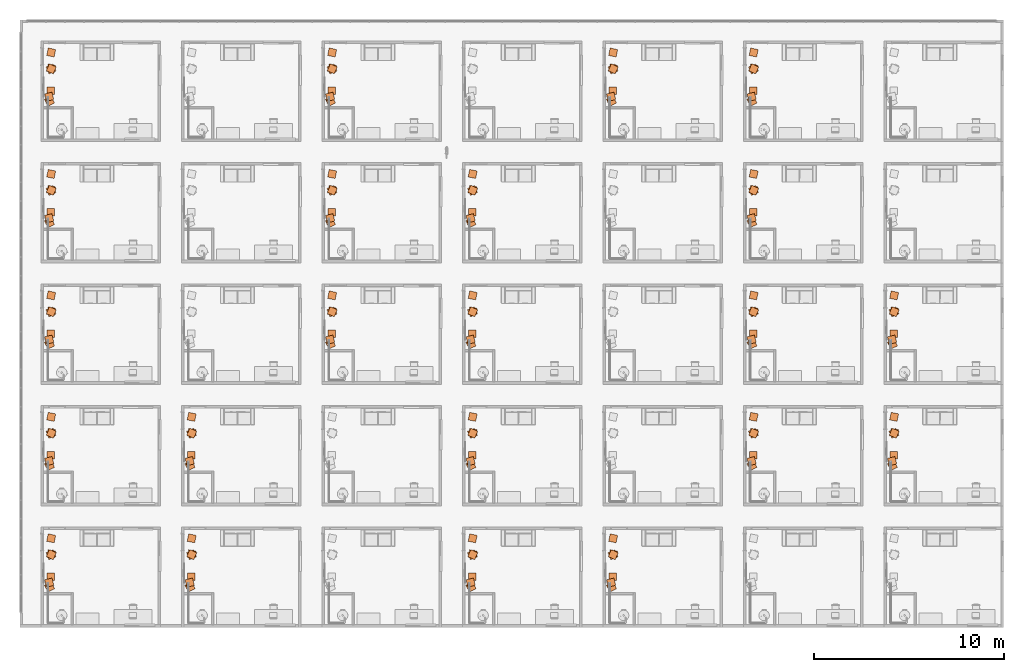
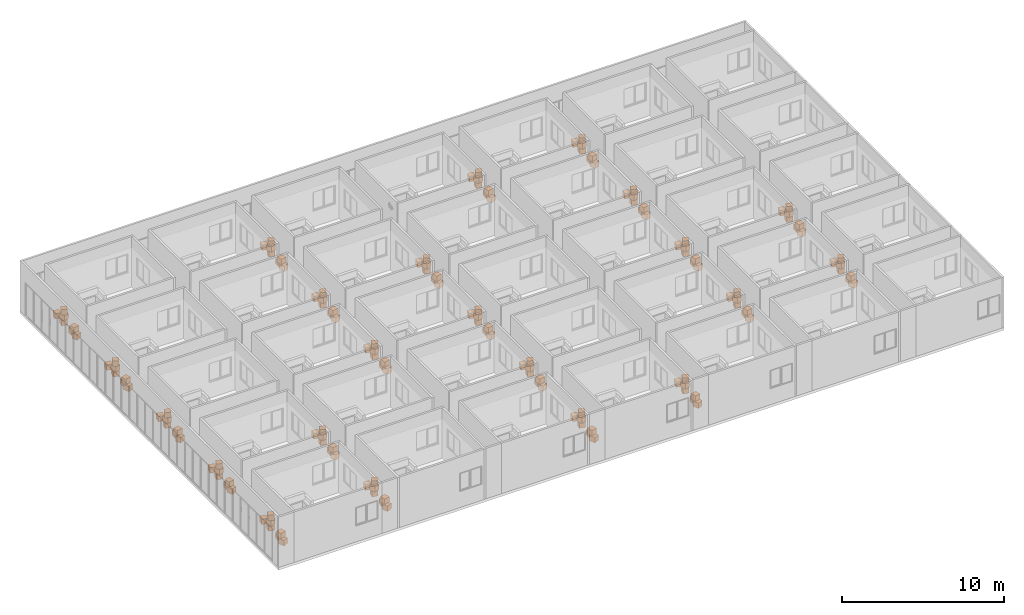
# One storey, part 69 of 69: 22 proxies.
"""IFC4 building model written with IfcOpenShell, lengths in centimetres."""

from ifc_helpers import new_model, entity, si_unit, converted_unit, derived_unit, direction, frame, origin, place, context, subcontext, project, spatial, indexed_curve, outline, extrude, source, transform, mapped, material, type_object, type_shapes, element, save


model = new_model("IFC4")

# Units and contexts
model_context = context("Model", 3, precision=0.001, world=origin(), true_north=direction((6.123233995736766e-17, 1.0)))
body_context = subcontext(model_context, "Body", "Model", "MODEL_VIEW")
ifc_project = project(units=[si_unit("LENGTHUNIT", "METRE", prefix="CENTI"), si_unit("AREAUNIT", "SQUARE_METRE"), si_unit("VOLUMEUNIT", "CUBIC_METRE"), derived_unit("THERMALTRANSMITTANCEUNIT", [(si_unit("MASSUNIT", "GRAM", prefix="KILO"), 1), (si_unit("THERMODYNAMICTEMPERATUREUNIT", "KELVIN"), -1), (si_unit("TIMEUNIT", "SECOND"), -3)]), converted_unit("PLANEANGLEUNIT", "DEGREE", entity("IfcPlaneAngleMeasure", 0.017453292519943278), si_unit("PLANEANGLEUNIT", "RADIAN"), dimensions=[0, 0, 0, 0, 0, 0, 0]), derived_unit("MASSDENSITYUNIT", [(si_unit("MASSUNIT", "GRAM", prefix="KILO"), 1), (si_unit("LENGTHUNIT", "METRE"), -3)]), derived_unit("VAPORPERMEABILITYUNIT", [(si_unit("LENGTHUNIT", "METRE"), -1), (si_unit("TIMEUNIT", "SECOND"), 1)]), derived_unit("USERDEFINED", [(si_unit("MASSUNIT", "GRAM", prefix="KILO"), 1), (si_unit("TIMEUNIT", "SECOND"), -3), (si_unit("LENGTHUNIT", "METRE"), 3), (si_unit("ELECTRICCURRENTUNIT", "AMPERE"), -2)]), derived_unit("SPECIFICHEATCAPACITYUNIT", [(si_unit("THERMODYNAMICTEMPERATUREUNIT", "KELVIN"), -1), (si_unit("LENGTHUNIT", "METRE"), 2), (si_unit("TIMEUNIT", "SECOND"), -2)]), derived_unit("THERMALCONDUCTANCEUNIT", [(si_unit("MASSUNIT", "GRAM", prefix="KILO"), 1), (si_unit("THERMODYNAMICTEMPERATUREUNIT", "KELVIN"), -1), (si_unit("TIMEUNIT", "SECOND"), -3), (si_unit("LENGTHUNIT", "METRE"), 1)]), si_unit("PRESSUREUNIT", "PASCAL"), derived_unit("MODULUSOFELASTICITYUNIT", [(si_unit("MASSUNIT", "GRAM", prefix="KILO"), 1), (si_unit("LENGTHUNIT", "METRE"), -1), (si_unit("TIMEUNIT", "SECOND"), -2)]), derived_unit("THERMALEXPANSIONCOEFFICIENTUNIT", [(si_unit("THERMODYNAMICTEMPERATUREUNIT", "KELVIN"), -1)])], contexts=[model_context])

# Site, building, storey, space
site_placement = place(None, origin())
site = spatial("IfcSite", under=ifc_project, at=site_placement, Name="Default", CompositionType="ELEMENT")
building_placement = place(site_placement, origin())
building = spatial("IfcBuilding", under=site, at=building_placement, Name="IDS Escape Game Building", CompositionType="ELEMENT")
storey_placement = place(building_placement, origin())
storey = spatial("IfcBuildingStorey", under=building, at=storey_placement, Name="00_Ground Floor", CompositionType="ELEMENT", Elevation=0.0)
space_1_placement = place(storey_placement, origin())
space_1 = spatial("IfcSpace", under=storey, at=space_1_placement, Name="14", CompositionType="ELEMENT", PredefinedType="NOTDEFINED")

# Proxy
ifc_material = material(Name="<Unnamed>")
building_element_proxy_type = type_object("IfcBuildingElementProxyType", Name="Moving Boxes:Moving Boxes", PredefinedType="NOTDEFINED", material=ifc_material)
shared_shape = source(origin(), body_context, "Body", "SweptSolid", [
    extrude(outline(indexed_curve([(-20.0, -20.0), (20.0, -20.0), (20.0, 20.0), (-20.0, 20.0), (-20.0, -20.0)], self_intersect=False)), frame((-129.4888892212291, -20.0, 0.0), z_axis=(0.0, 0.0, 1.0), x_axis=(-1.0, 0.0, 0.0)), (0.0, 0.0, 1.0), 40.0),
    extrude(outline(indexed_curve([(-20.0, -20.0), (20.00000000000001, -19.999999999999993), (20.0, 20.0), (-20.00000000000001, 19.999999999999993), (-20.0, -20.0)], self_intersect=False)), frame((-75.45547766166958, -26.102318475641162, 0.0), z_axis=(0.0, 0.0, 1.0), x_axis=(-0.906307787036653, -0.422618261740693, 0.0)), (0.0, 0.0, 1.0), 39.99999999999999),
    extrude(outline(indexed_curve([(-20.00000000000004, -19.999999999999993), (20.00000000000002, -19.999999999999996), (20.000000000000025, 19.999999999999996), (-20.000000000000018, 20.000000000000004), (-20.00000000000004, -19.999999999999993)], self_intersect=False)), frame((-98.66287120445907, -27.650524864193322, 40.0), z_axis=(0.0, 0.0, 1.0), x_axis=(-0.970295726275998, -0.24192189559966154, 0.0)), (0.0, 0.0, 1.0), 39.99999999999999),
    extrude(outline(indexed_curve([(-20.000000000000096, -20.00000000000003), (20.000000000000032, -20.000000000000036), (20.000000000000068, 20.000000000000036), (-20.00000000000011, 20.00000000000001), (-20.000000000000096, -20.00000000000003)], self_intersect=False)), frame((-247.73174870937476, -17.18153286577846, 0.0), z_axis=(0.0, 0.0, 1.0), x_axis=(-0.9794785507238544, 0.2015484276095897, 0.0)), (0.0, 0.0, 1.0), 39.999999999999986),
    extrude(outline(indexed_curve([(-20.00000000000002, -20.00000000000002), (20.00000000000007, -20.00000000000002), (20.000000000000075, 20.00000000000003), (-20.00000000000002, 20.00000000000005), (-20.00000000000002, -20.00000000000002)], self_intersect=False)), frame((-331.1917744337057, -17.18153286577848, 0.0), z_axis=(0.0, 0.0, 1.0), x_axis=(-0.9794785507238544, 0.2015484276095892, 0.0)), (0.0, 0.0, 1.0), 40.0),
    extrude(outline(indexed_curve([(-20.000000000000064, -20.000000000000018), (20.0, -20.000000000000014), (20.000000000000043, 20.000000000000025), (-20.00000000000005, 20.000000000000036), (-20.000000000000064, -20.000000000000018)], self_intersect=False)), frame((-244.74820724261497, -18.001176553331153, 40.0), z_axis=(0.0, 0.0, 1.0), x_axis=(-0.9247289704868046, -0.38062623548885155, 0.0)), (0.0, 0.0, 1.0), 40.0),
    extrude(outline(indexed_curve([(-20.000000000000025, -20.000000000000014), (20.000000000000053, -20.00000000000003), (20.000000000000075, 20.000000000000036), (-20.000000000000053, 20.000000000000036), (-20.000000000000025, -20.000000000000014)], self_intersect=False)), frame((-245.38613222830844, -16.613316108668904, 80.0), z_axis=(0.0, 0.0, 1.0), x_axis=(-0.9106045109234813, 0.41327887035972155, 0.0)), (0.0, 0.0, 1.0), 39.99999999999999),
])
type_shapes(building_element_proxy_type, [shared_shape])
proxy_1_placement = place(space_1_placement, frame((4492.0, 773.0, 0.0), z_axis=(0.0, 0.0, 1.0), x_axis=(0.0, -1.0, 0.0)))
element("IfcBuildingElementProxy", 1, at=proxy_1_placement, inside=space_1, type_object=building_element_proxy_type, material=ifc_material, Name="Moving Boxes:Moving Boxes", ObjectType="Moving Boxes:Moving Boxes", PredefinedType="NOTDEFINED", context=body_context, shape_type="MappedRepresentation", body=[
    mapped(shared_shape, transform((0.0, 0.0, 0.0), scale=1.0)),
])

# Space
space_2_placement = place(storey_placement, origin())
space_2 = spatial("IfcSpace", under=storey, at=space_2_placement, Name="21", CompositionType="ELEMENT", PredefinedType="NOTDEFINED")

# Proxy
proxy_2_placement = place(space_2_placement, frame((4492.0, 1411.0, 0.0), z_axis=(0.0, 0.0, 1.0), x_axis=(0.0, -1.0, 0.0)))
element("IfcBuildingElementProxy", 2, at=proxy_2_placement, inside=space_2, type_object=building_element_proxy_type, material=ifc_material, Name="Moving Boxes:Moving Boxes", ObjectType="Moving Boxes:Moving Boxes", PredefinedType="NOTDEFINED", context=body_context, shape_type="MappedRepresentation", body=[
    mapped(shared_shape, transform((0.0, 0.0, 0.0), scale=1.0)),
])

# Space
space_3_placement = place(storey_placement, origin())
space_3 = spatial("IfcSpace", under=storey, at=space_3_placement, Name="13", CompositionType="ELEMENT", PredefinedType="NOTDEFINED")

# Proxy
proxy_3_placement = place(space_3_placement, frame((3754.0, 773.0, 0.0), z_axis=(0.0, 0.0, 1.0), x_axis=(0.0, -1.0, 0.0)))
element("IfcBuildingElementProxy", 3, at=proxy_3_placement, inside=space_3, type_object=building_element_proxy_type, material=ifc_material, Name="Moving Boxes:Moving Boxes", ObjectType="Moving Boxes:Moving Boxes", PredefinedType="NOTDEFINED", context=body_context, shape_type="MappedRepresentation", body=[
    mapped(shared_shape, transform((0.0, 0.0, 0.0), scale=1.0)),
])

# Space
space_4_placement = place(storey_placement, origin())
space_4 = spatial("IfcSpace", under=storey, at=space_4_placement, Name="20", CompositionType="ELEMENT", PredefinedType="NOTDEFINED")

# Proxy
proxy_4_placement = place(space_4_placement, frame((3754.0, 1411.0, 0.0), z_axis=(0.0, 0.0, 1.0), x_axis=(0.0, -1.0, 0.0)))
element("IfcBuildingElementProxy", 4, at=proxy_4_placement, inside=space_4, type_object=building_element_proxy_type, material=ifc_material, Name="Moving Boxes:Moving Boxes", ObjectType="Moving Boxes:Moving Boxes", PredefinedType="NOTDEFINED", context=body_context, shape_type="MappedRepresentation", body=[
    mapped(shared_shape, transform((0.0, 0.0, 0.0), scale=1.0)),
])

# Space
space_5_placement = place(storey_placement, origin())
space_5 = spatial("IfcSpace", under=storey, at=space_5_placement, Name="27", CompositionType="ELEMENT", PredefinedType="NOTDEFINED")

# Proxy
proxy_5_placement = place(space_5_placement, frame((3754.0, 2049.0, 0.0), z_axis=(0.0, 0.0, 1.0), x_axis=(0.0, -1.0, 0.0)))
element("IfcBuildingElementProxy", 5, at=proxy_5_placement, inside=space_5, type_object=building_element_proxy_type, material=ifc_material, Name="Moving Boxes:Moving Boxes", ObjectType="Moving Boxes:Moving Boxes", PredefinedType="NOTDEFINED", context=body_context, shape_type="MappedRepresentation", body=[
    mapped(shared_shape, transform((0.0, 0.0, 0.0), scale=1.0)),
])

# Space
space_6_placement = place(storey_placement, origin())
space_6 = spatial("IfcSpace", under=storey, at=space_6_placement, Name="34", CompositionType="ELEMENT", PredefinedType="NOTDEFINED")

# Proxy
proxy_6_placement = place(space_6_placement, frame((3754.0, 2687.0, 0.0), z_axis=(0.0, 0.0, 1.0), x_axis=(0.0, -1.0, 0.0)))
element("IfcBuildingElementProxy", 6, at=proxy_6_placement, inside=space_6, type_object=building_element_proxy_type, material=ifc_material, Name="Moving Boxes:Moving Boxes", ObjectType="Moving Boxes:Moving Boxes", PredefinedType="NOTDEFINED", context=body_context, shape_type="MappedRepresentation", body=[
    mapped(shared_shape, transform((0.0, 0.0, 0.0), scale=1.0)),
])

# Space
space_7_placement = place(storey_placement, origin())
space_7 = spatial("IfcSpace", under=storey, at=space_7_placement, Name="5", CompositionType="ELEMENT", PredefinedType="NOTDEFINED")

# Proxy
proxy_7_placement = place(space_7_placement, frame((3016.0, 135.0, 0.0), z_axis=(0.0, 0.0, 1.0), x_axis=(0.0, -1.0, 0.0)))
element("IfcBuildingElementProxy", 7, at=proxy_7_placement, inside=space_7, type_object=building_element_proxy_type, material=ifc_material, Name="Moving Boxes:Moving Boxes", ObjectType="Moving Boxes:Moving Boxes", PredefinedType="NOTDEFINED", context=body_context, shape_type="MappedRepresentation", body=[
    mapped(shared_shape, transform((0.0, 0.0, 0.0), scale=1.0)),
])

# Space
space_8_placement = place(storey_placement, origin())
space_8 = spatial("IfcSpace", under=storey, at=space_8_placement, Name="33", CompositionType="ELEMENT", PredefinedType="NOTDEFINED")

# Proxy
proxy_8_placement = place(space_8_placement, frame((3016.0, 2687.0, 0.0), z_axis=(0.0, 0.0, 1.0), x_axis=(0.0, -1.0, 0.0)))
element("IfcBuildingElementProxy", 8, at=proxy_8_placement, inside=space_8, type_object=building_element_proxy_type, material=ifc_material, Name="Moving Boxes:Moving Boxes", ObjectType="Moving Boxes:Moving Boxes", PredefinedType="NOTDEFINED", context=body_context, shape_type="MappedRepresentation", body=[
    mapped(shared_shape, transform((0.0, 0.0, 0.0), scale=1.0)),
])

# Space
space_9_placement = place(storey_placement, origin())
space_9 = spatial("IfcSpace", under=storey, at=space_9_placement, Name="4", CompositionType="ELEMENT", PredefinedType="NOTDEFINED")

# Proxy
proxy_9_placement = place(space_9_placement, frame((2278.0, 135.0, 0.0), z_axis=(0.0, 0.0, 1.0), x_axis=(0.0, -1.0, 0.0)))
element("IfcBuildingElementProxy", 9, at=proxy_9_placement, inside=space_9, type_object=building_element_proxy_type, material=ifc_material, Name="Moving Boxes:Moving Boxes", ObjectType="Moving Boxes:Moving Boxes", PredefinedType="NOTDEFINED", context=body_context, shape_type="MappedRepresentation", body=[
    mapped(shared_shape, transform((0.0, 0.0, 0.0), scale=1.0)),
])

# Space
space_10_placement = place(storey_placement, origin())
space_10 = spatial("IfcSpace", under=storey, at=space_10_placement, Name="11", CompositionType="ELEMENT", PredefinedType="NOTDEFINED")

# Proxy
proxy_10_placement = place(space_10_placement, frame((2278.0, 773.0, 0.0), z_axis=(0.0, 0.0, 1.0), x_axis=(0.0, -1.0, 0.0)))
element("IfcBuildingElementProxy", 10, at=proxy_10_placement, inside=space_10, type_object=building_element_proxy_type, material=ifc_material, Name="Moving Boxes:Moving Boxes", ObjectType="Moving Boxes:Moving Boxes", PredefinedType="NOTDEFINED", context=body_context, shape_type="MappedRepresentation", body=[
    mapped(shared_shape, transform((0.0, 0.0, 0.0), scale=1.0)),
])

# Space
space_11_placement = place(storey_placement, origin())
space_11 = spatial("IfcSpace", under=storey, at=space_11_placement, Name="18", CompositionType="ELEMENT", PredefinedType="NOTDEFINED")

# Proxy
proxy_11_placement = place(space_11_placement, frame((2278.0, 1411.0, 0.0), z_axis=(0.0, 0.0, 1.0), x_axis=(0.0, -1.0, 0.0)))
element("IfcBuildingElementProxy", 11, at=proxy_11_placement, inside=space_11, type_object=building_element_proxy_type, material=ifc_material, Name="Moving Boxes:Moving Boxes", ObjectType="Moving Boxes:Moving Boxes", PredefinedType="NOTDEFINED", context=body_context, shape_type="MappedRepresentation", body=[
    mapped(shared_shape, transform((0.0, 0.0, 0.0), scale=1.0)),
])

# Space
space_12_placement = place(storey_placement, origin())
space_12 = spatial("IfcSpace", under=storey, at=space_12_placement, Name="25", CompositionType="ELEMENT", PredefinedType="NOTDEFINED")

# Proxy
proxy_12_placement = place(space_12_placement, frame((2278.0, 2049.0, 0.0), z_axis=(0.0, 0.0, 1.0), x_axis=(0.0, -1.0, 0.0)))
element("IfcBuildingElementProxy", 12, at=proxy_12_placement, inside=space_12, type_object=building_element_proxy_type, material=ifc_material, Name="Moving Boxes:Moving Boxes", ObjectType="Moving Boxes:Moving Boxes", PredefinedType="NOTDEFINED", context=body_context, shape_type="MappedRepresentation", body=[
    mapped(shared_shape, transform((0.0, 0.0, 0.0), scale=1.0)),
])

# Space
space_13_placement = place(storey_placement, origin())
space_13 = spatial("IfcSpace", under=storey, at=space_13_placement, Name="17", CompositionType="ELEMENT", PredefinedType="NOTDEFINED")

# Proxy
proxy_13_placement = place(space_13_placement, frame((1540.0, 1411.0, 0.0), z_axis=(0.0, 0.0, 1.0), x_axis=(0.0, -1.0, 0.0)))
element("IfcBuildingElementProxy", 13, at=proxy_13_placement, inside=space_13, type_object=building_element_proxy_type, material=ifc_material, Name="Moving Boxes:Moving Boxes", ObjectType="Moving Boxes:Moving Boxes", PredefinedType="NOTDEFINED", context=body_context, shape_type="MappedRepresentation", body=[
    mapped(shared_shape, transform((0.0, 0.0, 0.0), scale=1.0)),
])

# Space
space_14_placement = place(storey_placement, origin())
space_14 = spatial("IfcSpace", under=storey, at=space_14_placement, Name="24", CompositionType="ELEMENT", PredefinedType="NOTDEFINED")

# Proxy
proxy_14_placement = place(space_14_placement, frame((1540.0, 2049.0, 0.0), z_axis=(0.0, 0.0, 1.0), x_axis=(0.0, -1.0, 0.0)))
element("IfcBuildingElementProxy", 14, at=proxy_14_placement, inside=space_14, type_object=building_element_proxy_type, material=ifc_material, Name="Moving Boxes:Moving Boxes", ObjectType="Moving Boxes:Moving Boxes", PredefinedType="NOTDEFINED", context=body_context, shape_type="MappedRepresentation", body=[
    mapped(shared_shape, transform((0.0, 0.0, 0.0), scale=1.0)),
])

# Space
space_15_placement = place(storey_placement, origin())
space_15 = spatial("IfcSpace", under=storey, at=space_15_placement, Name="31", CompositionType="ELEMENT", PredefinedType="NOTDEFINED")

# Proxy
proxy_15_placement = place(space_15_placement, frame((1540.0, 2687.0, 0.0), z_axis=(0.0, 0.0, 1.0), x_axis=(0.0, -1.0, 0.0)))
element("IfcBuildingElementProxy", 15, at=proxy_15_placement, inside=space_15, type_object=building_element_proxy_type, material=ifc_material, Name="Moving Boxes:Moving Boxes", ObjectType="Moving Boxes:Moving Boxes", PredefinedType="NOTDEFINED", context=body_context, shape_type="MappedRepresentation", body=[
    mapped(shared_shape, transform((0.0, 0.0, 0.0), scale=1.0)),
])

# Space
space_16_placement = place(storey_placement, origin())
space_16 = spatial("IfcSpace", under=storey, at=space_16_placement, Name="2", CompositionType="ELEMENT", PredefinedType="NOTDEFINED")

# Proxy
proxy_16_placement = place(space_16_placement, frame((802.0, 135.0, 0.0), z_axis=(0.0, 0.0, 1.0), x_axis=(0.0, -1.0, 0.0)))
element("IfcBuildingElementProxy", 16, at=proxy_16_placement, inside=space_16, type_object=building_element_proxy_type, material=ifc_material, Name="Moving Boxes:Moving Boxes", ObjectType="Moving Boxes:Moving Boxes", PredefinedType="NOTDEFINED", context=body_context, shape_type="MappedRepresentation", body=[
    mapped(shared_shape, transform((0.0, 0.0, 0.0), scale=1.0)),
])

# Space
space_17_placement = place(storey_placement, origin())
space_17 = spatial("IfcSpace", under=storey, at=space_17_placement, Name="9", CompositionType="ELEMENT", PredefinedType="NOTDEFINED")

# Proxy
proxy_17_placement = place(space_17_placement, frame((802.0, 773.0, 0.0), z_axis=(0.0, 0.0, 1.0), x_axis=(0.0, -1.0, 0.0)))
element("IfcBuildingElementProxy", 17, at=proxy_17_placement, inside=space_17, type_object=building_element_proxy_type, material=ifc_material, Name="Moving Boxes:Moving Boxes", ObjectType="Moving Boxes:Moving Boxes", PredefinedType="NOTDEFINED", context=body_context, shape_type="MappedRepresentation", body=[
    mapped(shared_shape, transform((0.0, 0.0, 0.0), scale=1.0)),
])

# Space
space_18_placement = place(storey_placement, origin())
space_18 = spatial("IfcSpace", under=storey, at=space_18_placement, Name="1", CompositionType="ELEMENT", PredefinedType="NOTDEFINED")

# Proxy
proxy_18_placement = place(space_18_placement, frame((64.0, 135.0, 0.0), z_axis=(0.0, 0.0, 1.0), x_axis=(0.0, -1.0, 0.0)))
element("IfcBuildingElementProxy", 18, at=proxy_18_placement, inside=space_18, type_object=building_element_proxy_type, material=ifc_material, Name="Moving Boxes:Moving Boxes", ObjectType="Moving Boxes:Moving Boxes", PredefinedType="NOTDEFINED", context=body_context, shape_type="MappedRepresentation", body=[
    mapped(shared_shape, transform((0.0, 0.0, 0.0), scale=1.0)),
])

# Space
space_19_placement = place(storey_placement, origin())
space_19 = spatial("IfcSpace", under=storey, at=space_19_placement, Name="8", CompositionType="ELEMENT", PredefinedType="NOTDEFINED")

# Proxy
proxy_19_placement = place(space_19_placement, frame((64.0, 773.0, 0.0), z_axis=(0.0, 0.0, 1.0), x_axis=(0.0, -1.0, 0.0)))
element("IfcBuildingElementProxy", 19, at=proxy_19_placement, inside=space_19, type_object=building_element_proxy_type, material=ifc_material, Name="Moving Boxes:Moving Boxes", ObjectType="Moving Boxes:Moving Boxes", PredefinedType="NOTDEFINED", context=body_context, shape_type="MappedRepresentation", body=[
    mapped(shared_shape, transform((0.0, 0.0, 0.0), scale=1.0)),
])

# Space
space_20_placement = place(storey_placement, origin())
space_20 = spatial("IfcSpace", under=storey, at=space_20_placement, Name="15", CompositionType="ELEMENT", PredefinedType="NOTDEFINED")

# Proxy
proxy_20_placement = place(space_20_placement, frame((64.0, 1411.0, 0.0), z_axis=(0.0, 0.0, 1.0), x_axis=(0.0, -1.0, 0.0)))
element("IfcBuildingElementProxy", 20, at=proxy_20_placement, inside=space_20, type_object=building_element_proxy_type, material=ifc_material, Name="Moving Boxes:Moving Boxes", ObjectType="Moving Boxes:Moving Boxes", PredefinedType="NOTDEFINED", context=body_context, shape_type="MappedRepresentation", body=[
    mapped(shared_shape, transform((0.0, 0.0, 0.0), scale=1.0)),
])

# Space
space_21_placement = place(storey_placement, origin())
space_21 = spatial("IfcSpace", under=storey, at=space_21_placement, Name="22", CompositionType="ELEMENT", PredefinedType="NOTDEFINED")

# Proxy
proxy_21_placement = place(space_21_placement, frame((64.0, 2049.0, 0.0), z_axis=(0.0, 0.0, 1.0), x_axis=(0.0, -1.0, 0.0)))
element("IfcBuildingElementProxy", 21, at=proxy_21_placement, inside=space_21, type_object=building_element_proxy_type, material=ifc_material, Name="Moving Boxes:Moving Boxes", ObjectType="Moving Boxes:Moving Boxes", PredefinedType="NOTDEFINED", context=body_context, shape_type="MappedRepresentation", body=[
    mapped(shared_shape, transform((0.0, 0.0, 0.0), scale=1.0)),
])

# Space
space_22_placement = place(storey_placement, origin())
space_22 = spatial("IfcSpace", under=storey, at=space_22_placement, Name="29", CompositionType="ELEMENT", PredefinedType="NOTDEFINED")

# Proxy
proxy_22_placement = place(space_22_placement, frame((64.0, 2687.0, 0.0), z_axis=(0.0, 0.0, 1.0), x_axis=(0.0, -1.0, 0.0)))
element("IfcBuildingElementProxy", 22, at=proxy_22_placement, inside=space_22, type_object=building_element_proxy_type, material=ifc_material, Name="Moving Boxes:Moving Boxes", ObjectType="Moving Boxes:Moving Boxes", PredefinedType="NOTDEFINED", context=body_context, shape_type="MappedRepresentation", body=[
    mapped(shared_shape, transform((0.0, 0.0, 0.0), scale=1.0)),
])

save(model, "model.ifc")
